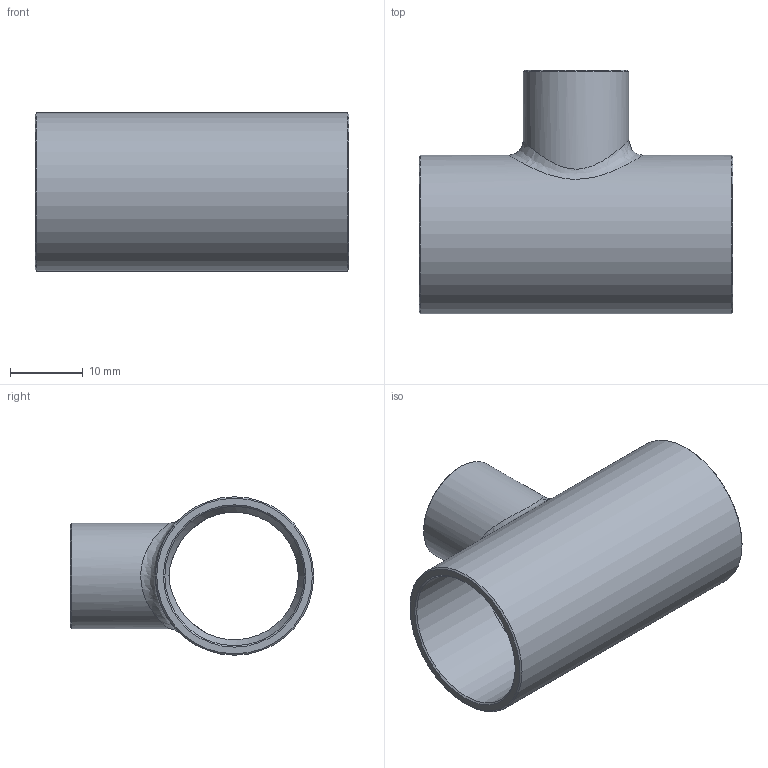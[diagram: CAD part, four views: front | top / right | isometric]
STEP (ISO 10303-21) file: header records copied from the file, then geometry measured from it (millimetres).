
FILE_DESCRIPTION((''),'2;1');
FILE_NAME('G:\SANHA-Ternat\Technik\Management\Bouwmaten + markeringen\z-maattekeningen 3D\29000s\29130341234_3d.stp','2017-07-31T16:18:14',('vdvijverd'),(''),'Autodesk Inventor 2009','Autodesk Inventor 2009','');
FILE_SCHEMA(('AUTOMOTIVE_DESIGN { 1 0 10303 214 1 1 1 1 }'));
Length unit declared in the file: millimetre
Products named in the file (1): 29130341234_3d
Bounding box: 43.2 x 33.5 x 21.8 mm (x, y, z)
Volume: 4594.4 mm3; surface area: 6534.9 mm2
Topology: 1 solids, 1 shells, 22 faces, 56 edges, 35 vertices
Faces by surface type: cone 8, cylinder 7, bspline 4, plane 3
Full cylindrical faces by diameter (mm): 12.82 x1, 14.5 x1, 19.17 x1, 21.8 x1
Entity records: 2060 total; most frequent: CARTESIAN_POINT 1613, DIRECTION 84, ORIENTED_EDGE 70, AXIS2_PLACEMENT_3D 42, EDGE_LOOP 40, EDGE_CURVE 35, VERTEX_POINT 29, CIRCLE 23
